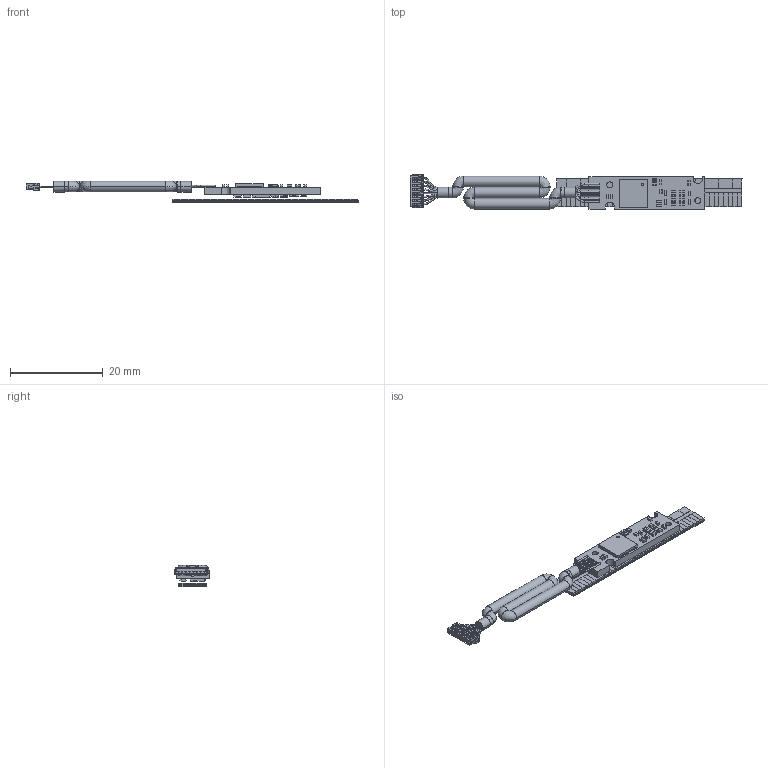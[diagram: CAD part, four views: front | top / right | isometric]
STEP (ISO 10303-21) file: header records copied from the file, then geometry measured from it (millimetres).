
FILE_DESCRIPTION((''),'2;1');
FILE_NAME('_________ASM_1_ASM','2026-04-29T',('guxinfeng'),(''),'PRO/ENGINEER BY PARAMETRIC TECHNOLOGY CORPORATION, 2012480','PRO/ENGINEER BY PARAMETRIC TECHNOLOGY CORPORATION, 2012480','');
FILE_SCHEMA(('CONFIG_CONTROL_DESIGN'));
Products named in the file (149): PRT0019__1; PRT0020__1; PRT0022__1; PRT0023__1; ASM0025__ASM_2_ASM; 棠掑004X__A_1_ASM; PRT0053__1; ﾏﾟ_6_3_1; 盄旰-004X__A_2_ASM; MANIFOLD_SOLID_BREP_23165__1; MANIFOLD_SOLID_BREP_23348__1; MANIFOLD_SOLID_BREP_23531__1; MANIFOLD_SOLID_BREP_23714__1; MANIFOLD_SOLID_BREP_23897__1; MANIFOLD_SOLID_BREP_24080__1; MANIFOLD_SOLID_BREP_24263__1; MANIFOLD_SOLID_BREP_24446__1; MANIFOLD_SOLID_BREP_24629__1; MANIFOLD_SOLID_BREP_24812__1; MANIFOLD_SOLID_BREP_24995__1; MANIFOLD_SOLID_BREP_25178__1; MANIFOLD_SOLID_BREP_25361__1; MANIFOLD_SOLID_BREP_25544__1; MANIFOLD_SOLID_BREP_25727__1; MANIFOLD_SOLID_BREP_25910__1; MANIFOLD_SOLID_BREP_26093__1; X0800HI-08-NOHF_2__ASM_1_ASM; X0800HI-08-NOHF__ASM_1_ASM; 崝樓遵僅酗僅_4_ASM; OPEN_CASCADE_STEP_TRANSLATO-206; BOARD_ASM_1_ASM; OPEN_CASCADE_STEP_TRANSLATO-786; OPEN_CASCADE_STEP_TRANSLAT-1259; TERMINAL-772_ASM_1_ASM; OPEN_CASCADE_STEP_TRANSLAT-1755; MID_BODY-1745_ASM_1_ASM; 6084318352_ASM_1_ASM; C6_ASM_1_ASM; OPEN_CASCADE_STEP_TRANSLAT-2141; OPEN_CASCADE_STEP_TRANSLAT-2614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
Assembly tree (180 placements, depth 7):
  _________ASM_1_ASM
    崝樓遵僅酗僅_4_ASM
      棠掑004X__A_1_ASM
        ASM0025__ASM_2_ASM
          PRT0019__1
          PRT0020__1
          PRT0022__1
          PRT0023__1
      盄旰-004X__A_2_ASM
        PRT0053__1
        ﾏﾟ_6_3_1
      X0800HI-08-NOHF__ASM_1_ASM
        X0800HI-08-NOHF_2__ASM_1_ASM
          MANIFOLD_SOLID_BREP_23165__1
          MANIFOLD_SOLID_BREP_23348__1
          MANIFOLD_SOLID_BREP_23531__1
          MANIFOLD_SOLID_BREP_23714__1
          MANIFOLD_SOLID_BREP_23897__1
          MANIFOLD_SOLID_BREP_24080__1
          MANIFOLD_SOLID_BREP_24263__1
          MANIFOLD_SOLID_BREP_24446__1
          MANIFOLD_SOLID_BREP_24629__1
          MANIFOLD_SOLID_BREP_24812__1
          MANIFOLD_SOLID_BREP_24995__1
          MANIFOLD_SOLID_BREP_25178__1
          MANIFOLD_SOLID_BREP_25361__1
          MANIFOLD_SOLID_BREP_25544__1
          MANIFOLD_SOLID_BREP_25727__1
          MANIFOLD_SOLID_BREP_25910__1
          MANIFOLD_SOLID_BREP_26093__1
    ELS-004Y_V1_6爾盄_A_1_ASM
      PCB_ASM_1_ASM
        BOARD_ASM_1_ASM
          OPEN_CASCADE_STEP_TRANSLATO-206
        C6_ASM_1_ASM
          6084318352_ASM_1_ASM
            TERMINAL-772_ASM_1_ASM
              OPEN_CASCADE_STEP_TRANSLATO-786
              OPEN_CASCADE_STEP_TRANSLAT-1259
            MID_BODY-1745_ASM_1_ASM
              OPEN_CASCADE_STEP_TRANSLAT-1755
        C5_ASM_1_ASM
          6423078112_ASM_1_ASM
            TERMINAL-2127_ASM_1_ASM
              OPEN_CASCADE_STEP_TRANSLAT-2141
              OPEN_CASCADE_STEP_TRANSLAT-2614
            MID_BODY-3100_ASM_1_ASM
              OPEN_CASCADE_STEP_TRANSLAT-3110
        C7_ASM_1_ASM
          6423078112_ASM_1_ASM
            TERMINAL-2127_ASM_1_ASM
              OPEN_CASCADE_STEP_TRANSLAT-2141
              OPEN_CASCADE_STEP_TRANSLAT-2614
            MID_BODY-3100_ASM_1_ASM
              OPEN_CASCADE_STEP_TRANSLAT-3110
        C3_ASM_1_ASM
          6084318352_ASM_1_ASM
            TERMINAL-772_ASM_1_ASM
              OPEN_CASCADE_STEP_TRANSLATO-786
              OPEN_CASCADE_STEP_TRANSLAT-1259
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Bounding box: 71.76 x 7.54 x 4.67 mm (x, y, z)
Volume: 810.7 mm3; surface area: 3497.5 mm2
Topology: 156 solids, 156 shells, 3247 faces, 8742 edges, 5562 vertices
Faces by surface type: plane 2457, cylinder 578, sphere 152, torus 30, bspline 28, revolution 2
Entity records: 90830 total; most frequent: CARTESIAN_POINT 15760, ORIENTED_EDGE 12948, DIRECTION 12593, EDGE_CURVE 6474, VECTOR 5563, LINE 5563, VERTEX_POINT 4274, AXIS2_PLACEMENT_3D 3514
